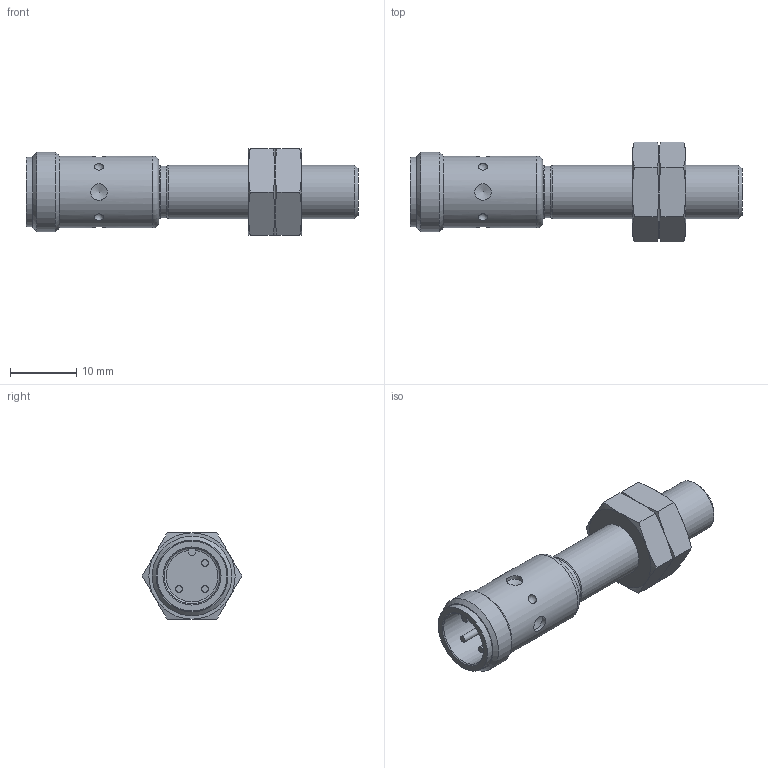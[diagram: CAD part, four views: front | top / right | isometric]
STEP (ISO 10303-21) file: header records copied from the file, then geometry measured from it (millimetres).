
FILE_DESCRIPTION(/* description */ ('STEP AP242','CAx-IF Rec.Pracs.---Representation and Presentation of Product Manufacturing Information (PMI)---4.0---2014-10-13','CAx-IF Rec.Pracs.---3D Tessellated Geometry---0.4---2014-09-14','2;1'),/* implementation_level */ '2;1');
FILE_NAME(/* name */ 'P_MZ_100_1032',/* time_stamp */ '2022-09-16T09:01:54+02:00',/* author */ ('License CC BY-ND 4.0'),/* organization */ ('CADENAS'),/* preprocessor_version */ 'ST-DEVELOPER v18.102',/* originating_system */ 'PARTsolutions',/* authorisation */ ' ');
FILE_SCHEMA (('AP242_MANAGED_MODEL_BASED_3D_ENGINEERING_MIM_LF { 1 0 10303 442 1 1 4 }'));
Length unit declared in the file: millimetre
Products named in the file (3): P_MZ_100_1032_vorne; P_MZ_100_1032_P2; P_MZ_100_1032_P1
Assembly tree (3 placements, depth 2):
  P_MZ_100_1032_vorne
    P_MZ_100_1032_P2  x2
    P_MZ_100_1032_P1
Bounding box: 50 x 15.01 x 13 mm (x, y, z)
Volume: 3766.4 mm3; surface area: 2886.3 mm2
Topology: 3 solids, 3 shells, 88 faces, 186 edges, 113 vertices
Faces by surface type: cone 36, plane 27, cylinder 17, torus 4, sphere 4
Full cylindrical faces by diameter (mm): 1 x3, 2.5 x4, 6.917 x2, 7.8 x1, 8 x2, 8.42 x1, 10.53 x1, 10.8 x1, 12 x1
Entity records: 1659 total; most frequent: CARTESIAN_POINT 400, DIRECTION 248, ORIENTED_EDGE 192, AXIS2_PLACEMENT_3D 117, FACE_BOUND 109, EDGE_LOOP 105, EDGE_CURVE 96, VERTEX_POINT 77
